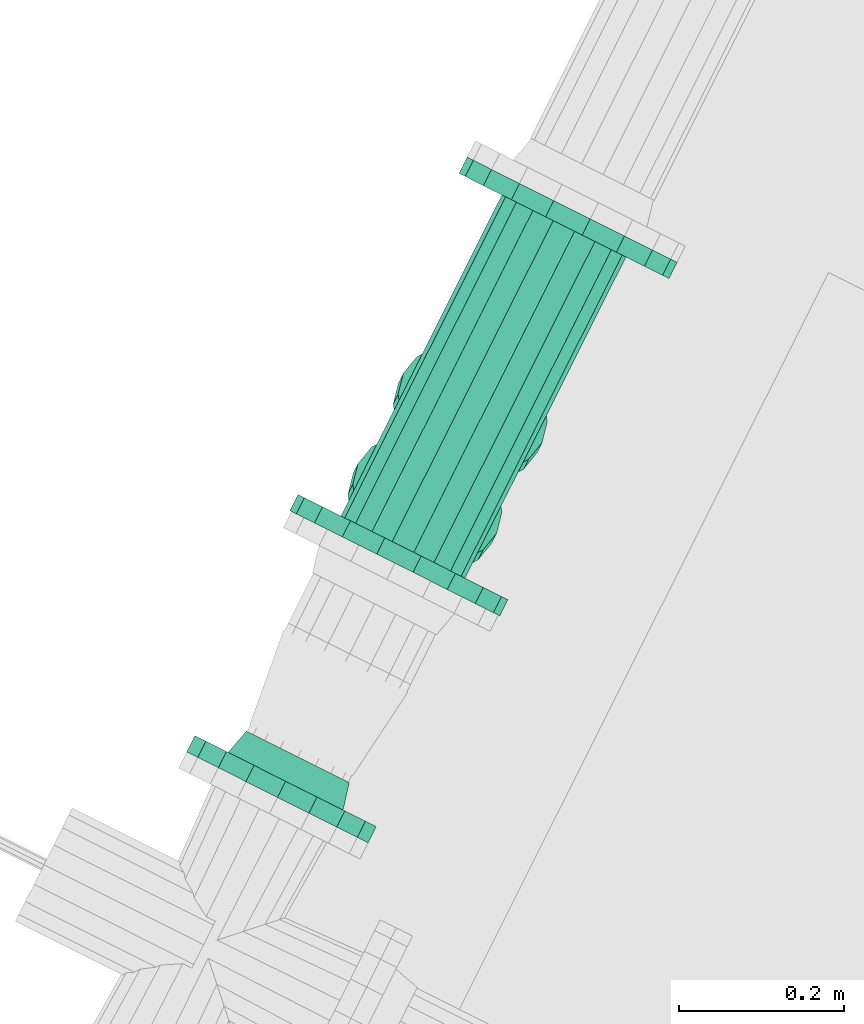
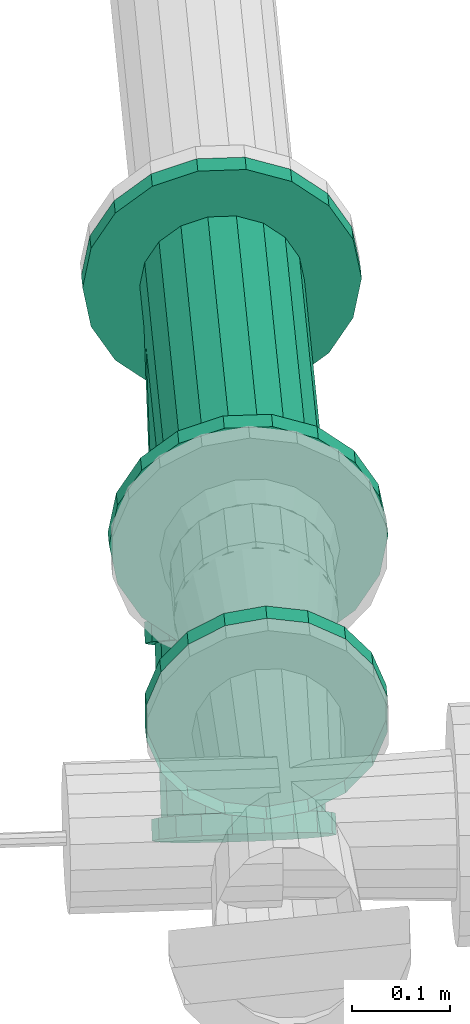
# One storey, part 119 of 206: 1 flow fitting, 1 flow treatment device.
"""IFC2X3 building model written with IfcOpenShell, lengths in metres."""

from ifc_helpers import new_model, si_unit, derived_unit, direction, frame, origin, place, context, subcontext, project, spatial, face_set, surface_model, source, transform, mapped, material, type_object, type_shapes, element, save


model = new_model("IFC2X3")

# Units and contexts
model_context = context("Model", 3, precision=5.2338327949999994e-05, world=origin(), true_north=direction((0.0, 1.0)))
body_context = subcontext(model_context, "Body", "Model", "MODEL_VIEW")
ifc_project = project(units=[si_unit("LENGTHUNIT", "METRE"), si_unit("AREAUNIT", "SQUARE_METRE"), si_unit("VOLUMEUNIT", "CUBIC_METRE"), si_unit("MASSUNIT", "GRAM", prefix="KILO"), si_unit("PLANEANGLEUNIT", "RADIAN"), derived_unit("THERMALTRANSMITTANCEUNIT", [(si_unit("MASSUNIT", "GRAM", prefix="KILO"), 1), (si_unit("THERMODYNAMICTEMPERATUREUNIT", "KELVIN"), -1), (si_unit("TIMEUNIT", "SECOND"), -3)])], contexts=[model_context])

# Site, building, storey
site_placement = place(None, frame((0.0, 0.0, 0.0), z_axis=(0.0, 0.0, 1.0), x_axis=(0.8939966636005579, -0.4480736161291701, 0.0)))
site = spatial("IfcSite", under=ifc_project, at=site_placement, Name="Default", CompositionType="ELEMENT")
building_placement = place(site_placement, origin())
building = spatial("IfcBuilding", under=site, at=building_placement, CompositionType="ELEMENT")
storey_placement = place(building_placement, origin())
storey = spatial("IfcBuildingStorey", under=building, at=storey_placement, Name="Erdgeschoss", CompositionType="ELEMENT", Elevation=0.0)

# Flow treatment device
ifc_material = material(Name="IfcSurfaceStyle #1741")
distribution_element_type_1 = type_object("IfcDistributionElementType", Name="Schmutzfänger 312846:Schmutzfänger 312846", material=ifc_material)
shared_shape_1 = source(origin(), body_context, "Body", "SurfaceModel", [
    surface_model("IfcFaceBasedSurfaceModel", [(20.350980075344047, 7.32099127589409, 2.159995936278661), (20.3797610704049, 7.325017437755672, 2.1569065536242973), (20.3797610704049, 7.415576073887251, 2.274924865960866), (20.35098007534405, 7.4052852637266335, 2.269849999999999), (20.405070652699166, 7.336610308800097, 2.14801103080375), (20.405070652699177, 7.445207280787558, 2.2895373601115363), (20.423856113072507, 7.354371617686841, 2.13438229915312), (20.42385611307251, 7.490604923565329, 2.311925), (20.433851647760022, 7.376159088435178, 2.11766418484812), (20.43385164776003, 7.546293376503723, 2.339387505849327), (20.433851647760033, 7.399344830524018, 2.099873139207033), (20.433851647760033, 7.583130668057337, 2.3393875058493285), (20.423856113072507, 7.42113230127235, 2.0831550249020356), (20.423856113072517, 7.5966736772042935, 2.311925), (20.405070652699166, 7.438893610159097, 2.0695262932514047), (20.40507065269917, 7.6077140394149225, 2.2895373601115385), (20.3797610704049, 7.450486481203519, 2.060630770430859), (20.3797610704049, 7.614920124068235, 2.274924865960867), (20.350980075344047, 7.4545126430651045, 2.0575413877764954), (20.350980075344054, 7.617422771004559, 2.2698499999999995), (20.32219908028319, 7.450486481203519, 2.060630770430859), (20.322199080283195, 7.614920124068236, 2.274924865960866), (20.296889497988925, 7.438893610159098, 2.0695262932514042), (20.29688949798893, 7.6077140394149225, 2.2895373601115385), (20.278104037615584, 7.421132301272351, 2.083155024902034), (20.278104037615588, 7.596673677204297, 2.3119249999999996), (20.268108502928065, 7.399344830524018, 2.099873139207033), (20.268108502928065, 7.583130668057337, 2.3393875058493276), (20.268108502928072, 7.376159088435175, 2.117664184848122), (20.268108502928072, 7.54629337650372, 2.339387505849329), (20.27810403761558, 7.35437161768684, 2.1343822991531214), (20.278104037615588, 7.4906049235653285, 2.3119250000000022), (20.296889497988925, 7.336610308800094, 2.148011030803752), (20.296889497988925, 7.445207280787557, 2.2895373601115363), (20.32219908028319, 7.325017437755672, 2.156906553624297), (20.322199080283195, 7.415576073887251, 2.2749248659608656), (20.208480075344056, 7.656892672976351, 2.354000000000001), (20.21707387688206, 7.656892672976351, 2.3052621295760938), (20.21707387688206, 7.634892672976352, 2.3052621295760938), (20.208480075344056, 7.634892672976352, 2.354000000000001), (20.241818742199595, 7.656892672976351, 2.2624027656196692), (20.241818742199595, 7.634892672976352, 2.262402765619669), (20.279730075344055, 7.656892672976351, 2.2305913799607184), (20.279730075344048, 7.634892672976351, 2.2305913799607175), (20.32623521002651, 7.656892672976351, 2.2136648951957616), (20.32623521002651, 7.634892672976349, 2.2136648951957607), (20.375724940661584, 7.6568926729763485, 2.21366489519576), (20.375724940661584, 7.634892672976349, 2.2136648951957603), (20.422230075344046, 7.656892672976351, 2.2305913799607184), (20.422230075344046, 7.634892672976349, 2.2305913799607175), (20.460141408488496, 7.656892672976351, 2.262402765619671), (20.460141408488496, 7.634892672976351, 2.2624027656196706), (20.484886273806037, 7.6568926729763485, 2.3052621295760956), (20.484886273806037, 7.634892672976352, 2.305262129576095), (20.49348007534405, 7.656892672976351, 2.3540000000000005), (20.49348007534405, 7.634892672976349, 2.3540000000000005), (20.48488627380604, 7.656892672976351, 2.402737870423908), (20.48488627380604, 7.634892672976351, 2.4027378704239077), (20.4601414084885, 7.656892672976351, 2.445597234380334), (20.4601414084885, 7.634892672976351, 2.4455972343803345), (20.42223007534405, 7.656892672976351, 2.4774086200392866), (20.422230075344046, 7.634892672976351, 2.4774086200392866), (20.375724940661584, 7.656892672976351, 2.49433510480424), (20.375724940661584, 7.634892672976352, 2.49433510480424), (20.32623521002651, 7.656892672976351, 2.4943351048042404), (20.32623521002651, 7.634892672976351, 2.49433510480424), (20.279730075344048, 7.656892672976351, 2.4774086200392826), (20.279730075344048, 7.634892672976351, 2.4774086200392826), (20.241818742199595, 7.656892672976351, 2.445597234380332), (20.241818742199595, 7.634892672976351, 2.4455972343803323), (20.21707387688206, 7.656892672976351, 2.402737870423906), (20.21707387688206, 7.634892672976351, 2.402737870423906), (20.350980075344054, 7.656892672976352, 2.3540000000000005), (20.35098007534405, 7.634892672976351, 2.3540000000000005), (20.266830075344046, 7.634892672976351, 2.3540000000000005), (20.271904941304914, 7.634892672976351, 2.3252190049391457), (20.271904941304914, 7.19889267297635, 2.3252190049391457), (20.266830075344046, 7.19889267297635, 2.3540000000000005), (20.28651743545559, 7.634892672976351, 2.299909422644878), (20.28651743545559, 7.19889267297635, 2.299909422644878), (20.30890507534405, 7.634892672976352, 2.2811239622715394), (20.308905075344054, 7.198892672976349, 2.2811239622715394), (20.336367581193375, 7.634892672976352, 2.2711284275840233), (20.336367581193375, 7.198892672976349, 2.2711284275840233), (20.365592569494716, 7.634892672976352, 2.271128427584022), (20.36559256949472, 7.198892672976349, 2.2711284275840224), (20.393055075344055, 7.634892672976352, 2.281123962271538), (20.393055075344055, 7.19889267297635, 2.281123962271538), (20.415442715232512, 7.634892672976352, 2.299909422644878), (20.415442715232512, 7.198892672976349, 2.299909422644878), (20.430055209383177, 7.634892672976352, 2.325219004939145), (20.430055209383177, 7.198892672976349, 2.325219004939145), (20.435130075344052, 7.634892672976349, 2.3540000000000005), (20.435130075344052, 7.19889267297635, 2.3540000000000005), (20.43005520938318, 7.634892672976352, 2.382780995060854), (20.430055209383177, 7.19889267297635, 2.382780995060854), (20.415442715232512, 7.634892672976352, 2.408090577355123), (20.415442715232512, 7.198892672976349, 2.408090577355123), (20.393055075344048, 7.634892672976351, 2.426876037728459), (20.39305507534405, 7.19889267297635, 2.42687603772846), (20.365592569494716, 7.634892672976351, 2.4368715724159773), (20.36559256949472, 7.19889267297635, 2.4368715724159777), (20.336367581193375, 7.634892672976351, 2.4368715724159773), (20.336367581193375, 7.19889267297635, 2.4368715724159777), (20.30890507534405, 7.634892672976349, 2.426876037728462), (20.30890507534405, 7.198892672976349, 2.4268760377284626), (20.28651743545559, 7.634892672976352, 2.4080905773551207), (20.28651743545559, 7.198892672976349, 2.4080905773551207), (20.271904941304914, 7.634892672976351, 2.3827809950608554), (20.271904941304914, 7.19889267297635, 2.3827809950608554), (20.208480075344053, 7.19889267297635, 2.354), (20.217073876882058, 7.19889267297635, 2.305262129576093), (20.21707387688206, 7.176892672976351, 2.305262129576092), (20.208480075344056, 7.176892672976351, 2.3539999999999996), (20.241818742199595, 7.19889267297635, 2.2624027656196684), (20.241818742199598, 7.176892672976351, 2.262402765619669), (20.279730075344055, 7.19889267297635, 2.2305913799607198), (20.279730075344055, 7.176892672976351, 2.230591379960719), (20.32623521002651, 7.19889267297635, 2.21366489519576), (20.326235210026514, 7.176892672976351, 2.2136648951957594), (20.375724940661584, 7.19889267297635, 2.2136648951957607), (20.375724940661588, 7.176892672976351, 2.2136648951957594), (20.422230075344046, 7.19889267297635, 2.2305913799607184), (20.42223007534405, 7.176892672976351, 2.230591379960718), (20.460141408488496, 7.19889267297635, 2.262402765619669), (20.4601414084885, 7.176892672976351, 2.2624027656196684), (20.48488627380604, 7.19889267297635, 2.3052621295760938), (20.48488627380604, 7.17689267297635, 2.305262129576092), (20.49348007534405, 7.19889267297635, 2.354000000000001), (20.49348007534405, 7.17689267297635, 2.354000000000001), (20.48488627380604, 7.19889267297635, 2.402737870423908), (20.48488627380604, 7.176892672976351, 2.4027378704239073), (20.460141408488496, 7.19889267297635, 2.4455972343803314), (20.4601414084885, 7.17689267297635, 2.445597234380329), (20.422230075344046, 7.19889267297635, 2.4774086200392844), (20.422230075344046, 7.176892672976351, 2.4774086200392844), (20.375724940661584, 7.19889267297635, 2.49433510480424), (20.375724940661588, 7.176892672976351, 2.4943351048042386), (20.32623521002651, 7.19889267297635, 2.4943351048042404), (20.326235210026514, 7.176892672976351, 2.4943351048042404), (20.279730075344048, 7.19889267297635, 2.477408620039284), (20.279730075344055, 7.176892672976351, 2.477408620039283), (20.241818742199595, 7.19889267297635, 2.445597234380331), (20.241818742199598, 7.176892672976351, 2.445597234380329), (20.21707387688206, 7.19889267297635, 2.4027378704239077), (20.21707387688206, 7.176892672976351, 2.4027378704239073), (20.350980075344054, 7.19889267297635, 2.3540000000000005), (20.350980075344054, 7.176892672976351, 2.3539999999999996), (20.256830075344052, 7.387751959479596, 2.1087686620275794), (20.26250801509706, 7.413298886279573, 2.089165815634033), (20.26250801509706, 7.399906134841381, 2.0717120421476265), (20.256830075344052, 7.374359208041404, 2.0913148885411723), (20.27885699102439, 7.435764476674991, 2.0719273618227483), (20.27885699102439, 7.422371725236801, 2.0544735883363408), (20.303905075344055, 7.452439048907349, 2.059132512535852), (20.30390507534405, 7.439046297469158, 2.041678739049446), (20.334631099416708, 7.461311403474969, 2.0523245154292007), (20.334631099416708, 7.447918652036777, 2.034870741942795), (20.367329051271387, 7.461311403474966, 2.052324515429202), (20.367329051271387, 7.447918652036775, 2.0348707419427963), (20.39805507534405, 7.452439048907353, 2.05913251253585), (20.398055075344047, 7.439046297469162, 2.0416787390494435), (20.4231031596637, 7.435764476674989, 2.07192736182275), (20.423103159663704, 7.422371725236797, 2.054473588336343), (20.439452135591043, 7.4132988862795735, 2.089165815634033), (20.439452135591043, 7.399906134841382, 2.0717120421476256), (20.44513007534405, 7.387751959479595, 2.10876866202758), (20.44513007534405, 7.374359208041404, 2.0913148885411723), (20.439452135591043, 7.362205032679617, 2.1283715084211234), (20.439452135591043, 7.348812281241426, 2.1109177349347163), (20.4231031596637, 7.339739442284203, 2.145609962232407), (20.4231031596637, 7.326346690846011, 2.1281561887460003), (20.39805507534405, 7.323064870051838, 2.158404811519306), (20.398055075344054, 7.309672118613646, 2.1409510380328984), (20.367329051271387, 7.314192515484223, 2.165212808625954), (20.367329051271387, 7.300799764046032, 2.1477590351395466), (20.334631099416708, 7.314192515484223, 2.165212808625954), (20.334631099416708, 7.300799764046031, 2.1477590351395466), (20.303905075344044, 7.323064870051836, 2.1584048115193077), (20.30390507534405, 7.309672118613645, 2.1409510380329), (20.278856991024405, 7.339739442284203, 2.1456099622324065), (20.2788569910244, 7.326346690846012, 2.1281561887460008), (20.26250801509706, 7.36220503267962, 2.128371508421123), (20.26250801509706, 7.34881228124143, 2.1109177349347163), (20.35098007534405, 7.387751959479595, 2.10876866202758), (20.35098007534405, 7.374359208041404, 2.0913148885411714), (20.266830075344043, 7.374359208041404, 2.091314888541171), (20.271904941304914, 7.397192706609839, 2.0737941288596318), (20.271904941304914, 7.287813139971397, 1.9312479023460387), (20.266830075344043, 7.264979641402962, 1.9487686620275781), (20.28651743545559, 7.417272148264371, 2.05838663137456), (20.28651743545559, 7.30789258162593, 1.9158404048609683), (20.30890507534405, 7.432175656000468, 2.0469507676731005), (20.308905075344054, 7.3227960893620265, 1.9044045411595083), (20.336367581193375, 7.440105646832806, 2.040865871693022), (20.336367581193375, 7.330726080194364, 1.8983196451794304), (20.365592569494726, 7.440105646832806, 2.04086587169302), (20.36559256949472, 7.330726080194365, 1.898319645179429), (20.393055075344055, 7.432175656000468, 2.0469507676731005), (20.393055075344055, 7.3227960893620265, 1.904404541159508), (20.41544271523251, 7.41727214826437, 2.05838663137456), (20.415442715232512, 7.30789258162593, 1.9158404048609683), (20.430055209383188, 7.397192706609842, 2.0737941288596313), (20.43005520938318, 7.2878131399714, 1.931247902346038), (20.43513007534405, 7.374359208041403, 2.0913148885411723), (20.43513007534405, 7.264979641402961, 1.9487686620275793), (20.430055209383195, 7.351525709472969, 2.1088356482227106), (20.43005520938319, 7.242146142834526, 1.9662894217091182), (20.415442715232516, 7.3314462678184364, 2.124243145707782), (20.415442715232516, 7.222066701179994, 1.9816969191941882), (20.39305507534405, 7.3165427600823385, 2.1356790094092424), (20.39305507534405, 7.207163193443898, 1.99313278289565), (20.36559256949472, 7.308612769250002, 2.1417639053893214), (20.36559256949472, 7.19923320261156, 1.9992176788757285), (20.336367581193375, 7.308612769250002, 2.141763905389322), (20.336367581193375, 7.19923320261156, 1.9992176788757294), (20.308905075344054, 7.316542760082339, 2.135679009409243), (20.308905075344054, 7.207163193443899, 1.9931327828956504), (20.28651743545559, 7.3314462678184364, 2.124243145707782), (20.28651743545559, 7.222066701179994, 1.9816969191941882), (20.271904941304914, 7.35152570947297, 2.10883564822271), (20.271904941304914, 7.242146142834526, 1.9662894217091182), (20.256830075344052, 7.264979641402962, 1.9487686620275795), (20.26250801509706, 7.290526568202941, 1.9291658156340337), (20.26250801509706, 7.277133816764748, 1.9117120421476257), (20.256830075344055, 7.251586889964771, 1.9313148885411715), (20.278856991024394, 7.312992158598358, 1.9119273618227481), (20.278856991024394, 7.299599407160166, 1.8944735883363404), (20.30390507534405, 7.329666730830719, 1.8991325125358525), (20.30390507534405, 7.316273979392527, 1.8816787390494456), (20.334631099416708, 7.338539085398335, 1.8923245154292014), (20.334631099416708, 7.325146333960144, 1.8748707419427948), (20.367329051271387, 7.3385390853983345, 1.8923245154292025), (20.367329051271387, 7.325146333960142, 1.8748707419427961), (20.398055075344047, 7.329666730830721, 1.8991325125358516), (20.398055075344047, 7.316273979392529, 1.8816787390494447), (20.423103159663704, 7.312992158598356, 1.9119273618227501), (20.423103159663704, 7.299599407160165, 1.8944735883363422), (20.439452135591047, 7.290526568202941, 1.9291658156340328), (20.439452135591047, 7.2771338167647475, 1.9117120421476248), (20.44513007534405, 7.264979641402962, 1.9487686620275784), (20.44513007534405, 7.251586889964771, 1.9313148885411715), (20.439452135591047, 7.239432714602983, 1.9683715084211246), (20.439452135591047, 7.226039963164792, 1.950917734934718), (20.4231031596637, 7.216967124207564, 1.9856099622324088), (20.4231031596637, 7.203574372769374, 1.9681561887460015), (20.398055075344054, 7.2002925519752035, 1.9984048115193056), (20.39805507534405, 7.1868998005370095, 1.9809510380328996), (20.367329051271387, 7.191420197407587, 2.0052128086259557), (20.367329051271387, 7.178027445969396, 1.9877590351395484), (20.334631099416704, 7.191420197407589, 2.0052128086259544), (20.334631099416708, 7.178027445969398, 1.9877590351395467), (20.30390507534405, 7.200292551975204, 1.998404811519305), (20.303905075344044, 7.186899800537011, 1.9809510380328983), (20.2788569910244, 7.2169671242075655, 1.9856099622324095), (20.278856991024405, 7.203574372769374, 1.968156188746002), (20.26250801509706, 7.239432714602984, 1.9683715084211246), (20.26250801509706, 7.226039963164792, 1.950917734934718), (20.35098007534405, 7.264979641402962, 1.9487686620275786), (20.35098007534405, 7.251586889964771, 1.931314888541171)], [face_set([[[0, 1, 2, 3]], [[1, 4, 5, 2]], [[4, 6, 7, 5]], [[6, 8, 9, 7]], [[8, 10, 11, 9]], [[10, 12, 13, 11]], [[12, 14, 15, 13]], [[14, 16, 17, 15]], [[16, 18, 19, 17]], [[18, 20, 21, 19]], [[20, 22, 23, 21]], [[22, 24, 25, 23]], [[24, 26, 27, 25]], [[26, 28, 29, 27]], [[28, 30, 31, 29]], [[30, 32, 33, 31]], [[32, 34, 35, 33]], [[34, 0, 3, 35]], [[36, 37, 38, 39]], [[37, 40, 41, 38]], [[40, 42, 43, 41]], [[42, 44, 45, 43]], [[44, 46, 47, 45]], [[46, 48, 49, 47]], [[48, 50, 51, 49]], [[50, 52, 53, 51]], [[52, 54, 55, 53]], [[54, 56, 57, 55]], [[56, 58, 59, 57]], [[58, 60, 61, 59]], [[60, 62, 63, 61]], [[62, 64, 65, 63]], [[64, 66, 67, 65]], [[66, 68, 69, 67]], [[68, 70, 71, 69]], [[70, 36, 39, 71]], [[72, 37, 36]], [[72, 40, 37]], [[72, 42, 40]], [[72, 44, 42]], [[72, 46, 44]], [[72, 48, 46]], [[72, 50, 48]], [[72, 52, 50]], [[72, 54, 52]], [[72, 56, 54]], [[72, 58, 56]], [[72, 60, 58]], [[72, 62, 60]], [[72, 64, 62]], [[72, 66, 64]], [[72, 68, 66]], [[72, 70, 68]], [[72, 36, 70]], [[73, 71, 39]], [[73, 69, 71]], [[73, 67, 69]], [[73, 65, 67]], [[73, 63, 65]], [[73, 61, 63]], [[73, 59, 61]], [[73, 57, 59]], [[73, 55, 57]], [[73, 53, 55]], [[73, 51, 53]], [[73, 49, 51]], [[73, 47, 49]], [[73, 45, 47]], [[73, 43, 45]], [[73, 41, 43]], [[73, 38, 41]], [[73, 39, 38]], [[74, 75, 76, 77]], [[75, 78, 79, 76]], [[78, 80, 81, 79]], [[80, 82, 83, 81]], [[82, 84, 85, 83]], [[84, 86, 87, 85]], [[86, 88, 89, 87]], [[88, 90, 91, 89]], [[90, 92, 93, 91]], [[92, 94, 95, 93]], [[94, 96, 97, 95]], [[96, 98, 99, 97]], [[98, 100, 101, 99]], [[100, 102, 103, 101]], [[102, 104, 105, 103]], [[104, 106, 107, 105]], [[106, 108, 109, 107]], [[108, 74, 77, 109]], [[110, 111, 112, 113]], [[111, 114, 115, 112]], [[114, 116, 117, 115]], [[116, 118, 119, 117]], [[118, 120, 121, 119]], [[120, 122, 123, 121]], [[122, 124, 125, 123]], [[124, 126, 127, 125]], [[126, 128, 129, 127]], [[128, 130, 131, 129]], [[130, 132, 133, 131]], [[132, 134, 135, 133]], [[134, 136, 137, 135]], [[136, 138, 139, 137]], [[138, 140, 141, 139]], [[140, 142, 143, 141]], [[142, 144, 145, 143]], [[144, 110, 113, 145]], [[146, 111, 110]], [[146, 114, 111]], [[146, 116, 114]], [[146, 118, 116]], [[146, 120, 118]], [[146, 122, 120]], [[146, 124, 122]], [[146, 126, 124]], [[146, 128, 126]], [[146, 130, 128]], [[146, 132, 130]], [[146, 134, 132]], [[146, 136, 134]], [[146, 138, 136]], [[146, 140, 138]], [[146, 142, 140]], [[146, 144, 142]], [[146, 110, 144]], [[147, 145, 113]], [[147, 143, 145]], [[147, 141, 143]], [[147, 139, 141]], [[147, 137, 139]], [[147, 135, 137]], [[147, 133, 135]], [[147, 131, 133]], [[147, 129, 131]], [[147, 127, 129]], [[147, 125, 127]], [[147, 123, 125]], [[147, 121, 123]], [[147, 119, 121]], [[147, 117, 119]], [[147, 115, 117]], [[147, 112, 115]], [[147, 113, 112]], [[148, 149, 150, 151]], [[149, 152, 153, 150]], [[152, 154, 155, 153]], [[154, 156, 157, 155]], [[156, 158, 159, 157]], [[158, 160, 161, 159]], [[160, 162, 163, 161]], [[162, 164, 165, 163]], [[164, 166, 167, 165]], [[166, 168, 169, 167]], [[168, 170, 171, 169]], [[170, 172, 173, 171]], [[172, 174, 175, 173]], [[174, 176, 177, 175]], [[176, 178, 179, 177]], [[178, 180, 181, 179]], [[180, 182, 183, 181]], [[182, 148, 151, 183]], [[184, 149, 148]], [[184, 152, 149]], [[184, 154, 152]], [[184, 156, 154]], [[184, 158, 156]], [[184, 160, 158]], [[184, 162, 160]], [[184, 164, 162]], [[184, 166, 164]], [[184, 168, 166]], [[184, 170, 168]], [[184, 172, 170]], [[184, 174, 172]], [[184, 176, 174]], [[184, 178, 176]], [[184, 180, 178]], [[184, 182, 180]], [[184, 148, 182]], [[185, 183, 151]], [[185, 181, 183]], [[185, 179, 181]], [[185, 177, 179]], [[185, 175, 177]], [[185, 173, 175]], [[185, 171, 173]], [[185, 169, 171]], [[185, 167, 169]], [[185, 165, 167]], [[185, 163, 165]], [[185, 161, 163]], [[185, 159, 161]], [[185, 157, 159]], [[185, 155, 157]], [[185, 153, 155]], [[185, 150, 153]], [[185, 151, 150]], [[186, 187, 188, 189]], [[187, 190, 191, 188]], [[190, 192, 193, 191]], [[192, 194, 195, 193]], [[194, 196, 197, 195]], [[196, 198, 199, 197]], [[198, 200, 201, 199]], [[200, 202, 203, 201]], [[202, 204, 205, 203]], [[204, 206, 207, 205]], [[206, 208, 209, 207]], [[208, 210, 211, 209]], [[210, 212, 213, 211]], [[212, 214, 215, 213]], [[214, 216, 217, 215]], [[216, 218, 219, 217]], [[218, 220, 221, 219]], [[220, 186, 189, 221]], [[222, 223, 224, 225]], [[223, 226, 227, 224]], [[226, 228, 229, 227]], [[228, 230, 231, 229]], [[230, 232, 233, 231]], [[232, 234, 235, 233]], [[234, 236, 237, 235]], [[236, 238, 239, 237]], [[238, 240, 241, 239]], [[240, 242, 243, 241]], [[242, 244, 245, 243]], [[244, 246, 247, 245]], [[246, 248, 249, 247]], [[248, 250, 251, 249]], [[250, 252, 253, 251]], [[252, 254, 255, 253]], [[254, 256, 257, 255]], [[256, 222, 225, 257]], [[258, 223, 222]], [[258, 226, 223]], [[258, 228, 226]], [[258, 230, 228]], [[258, 232, 230]], [[258, 234, 232]], [[258, 236, 234]], [[258, 238, 236]], [[258, 240, 238]], [[258, 242, 240]], [[258, 244, 242]], [[258, 246, 244]], [[258, 248, 246]], [[258, 250, 248]], [[258, 252, 250]], [[258, 254, 252]], [[258, 256, 254]], [[258, 222, 256]], [[259, 257, 225]], [[259, 255, 257]], [[259, 253, 255]], [[259, 251, 253]], [[259, 249, 251]], [[259, 247, 249]], [[259, 245, 247]], [[259, 243, 245]], [[259, 241, 243]], [[259, 239, 241]], [[259, 237, 239]], [[259, 235, 237]], [[259, 233, 235]], [[259, 231, 233]], [[259, 229, 231]], [[259, 227, 229]], [[259, 224, 227]], [[259, 225, 224]]])]),
])
type_shapes(distribution_element_type_1, [shared_shape_1])
flow_treatment_device_placement = place(storey_placement, origin())
element("IfcFlowTreatmentDevice", 1, at=flow_treatment_device_placement, inside=storey, type_object=distribution_element_type_1, material=ifc_material, Name="Schmutzfänger", ObjectType="Schmutzfänger", context=body_context, shape_type="MappedRepresentation", body=[
    mapped(shared_shape_1, transform((0.0, 0.0, 0.0), scale=1.0)),
])

# Flow fitting
distribution_element_type_2 = type_object("IfcDistributionElementType", Name="Flansch 314715:Flansch 314715", material=ifc_material)
shared_shape_2 = source(origin(), body_context, "Body", "SurfaceModel", [
    surface_model("IfcFaceBasedSurfaceModel", [(20.35098007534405, 6.8589610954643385, 2.479), (20.39373259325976, 6.8589610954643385, 2.471461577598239), (20.39373259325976, 6.88096109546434, 2.471461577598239), (20.35098007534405, 6.88096109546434, 2.479), (20.431328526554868, 6.8589610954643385, 2.449755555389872), (20.431328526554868, 6.88096109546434, 2.449755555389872), (20.4592332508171, 6.8589610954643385, 2.416499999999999), (20.4592332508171, 6.88096109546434, 2.416499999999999), (20.47408104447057, 6.8589610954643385, 2.375706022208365), (20.47408104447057, 6.88096109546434, 2.375706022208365), (20.47408104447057, 6.8589610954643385, 2.3322939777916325), (20.47408104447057, 6.88096109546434, 2.3322939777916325), (20.4592332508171, 6.8589610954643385, 2.2914999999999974), (20.4592332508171, 6.88096109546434, 2.2914999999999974), (20.431328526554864, 6.8589610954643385, 2.258244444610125), (20.431328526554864, 6.88096109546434, 2.258244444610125), (20.393732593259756, 6.8589610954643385, 2.236538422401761), (20.393732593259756, 6.88096109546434, 2.236538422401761), (20.350980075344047, 6.8589610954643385, 2.2290000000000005), (20.350980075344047, 6.88096109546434, 2.2290000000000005), (20.308227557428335, 6.8589610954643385, 2.236538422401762), (20.308227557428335, 6.88096109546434, 2.236538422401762), (20.270631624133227, 6.8589610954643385, 2.2582444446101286), (20.270631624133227, 6.88096109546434, 2.2582444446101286), (20.24272689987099, 6.8589610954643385, 2.291499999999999), (20.24272689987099, 6.88096109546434, 2.291499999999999), (20.22787910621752, 6.8589610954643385, 2.3322939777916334), (20.22787910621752, 6.88096109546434, 2.3322939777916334), (20.22787910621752, 6.8589610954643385, 2.375706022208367), (20.22787910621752, 6.88096109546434, 2.375706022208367), (20.24272689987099, 6.8589610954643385, 2.416500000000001), (20.24272689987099, 6.88096109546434, 2.416500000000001), (20.270631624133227, 6.8589610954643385, 2.449755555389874), (20.270631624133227, 6.88096109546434, 2.449755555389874), (20.308227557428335, 6.8589610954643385, 2.471461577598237), (20.308227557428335, 6.88096109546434, 2.471461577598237), (20.35098007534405, 6.880961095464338, 2.3540000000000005), (20.428980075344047, 6.88096109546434, 2.353999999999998), (20.424276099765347, 6.88096109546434, 2.327322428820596), (20.416617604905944, 6.913961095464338, 2.330109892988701), (20.420830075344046, 6.913961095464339, 2.3539999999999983), (20.410731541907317, 6.88096109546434, 2.303862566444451), (20.404488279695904, 6.913961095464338, 2.3091012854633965), (20.389980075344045, 6.88096109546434, 2.286450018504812), (20.385905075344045, 6.913961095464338, 2.293508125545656), (20.364524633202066, 6.88096109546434, 2.277184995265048), (20.36310940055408, 6.913961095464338, 2.2852111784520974), (20.337435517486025, 6.88096109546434, 2.277184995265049), (20.338850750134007, 6.913961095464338, 2.2852111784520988), (20.311980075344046, 6.88096109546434, 2.286450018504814), (20.316055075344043, 6.913961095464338, 2.293508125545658), (20.29122860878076, 6.88096109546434, 2.303862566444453), (20.297471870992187, 6.913961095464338, 2.309101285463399), (20.277684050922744, 6.88096109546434, 2.3273224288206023), (20.285342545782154, 6.913961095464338, 2.330109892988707), (20.272980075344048, 6.88096109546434, 2.3540000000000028), (20.281130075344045, 6.913961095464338, 2.354000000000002), (20.277684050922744, 6.88096109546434, 2.3806775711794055), (20.285342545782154, 6.913961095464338, 2.377890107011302), (20.291228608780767, 6.88096109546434, 2.404137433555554), (20.297471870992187, 6.913961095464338, 2.398898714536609), (20.311980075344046, 6.88096109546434, 2.4215499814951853), (20.316055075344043, 6.913961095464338, 2.4144918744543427), (20.337435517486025, 6.88096109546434, 2.430815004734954), (20.33885075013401, 6.913961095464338, 2.422788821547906), (20.364524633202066, 6.88096109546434, 2.4308150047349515), (20.36310940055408, 6.913961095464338, 2.422788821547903), (20.389980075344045, 6.88096109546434, 2.421549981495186), (20.38590507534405, 6.913961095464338, 2.4144918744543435), (20.410731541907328, 6.88096109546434, 2.404137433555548), (20.404488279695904, 6.913961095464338, 2.3988987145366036), (20.42427609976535, 6.88096109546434, 2.3806775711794), (20.416617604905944, 6.913961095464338, 2.3778901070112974)], [face_set([[[0, 1, 2, 3]], [[1, 4, 5, 2]], [[4, 6, 7, 5]], [[6, 8, 9, 7]], [[8, 10, 11, 9]], [[10, 12, 13, 11]], [[12, 14, 15, 13]], [[14, 16, 17, 15]], [[16, 18, 19, 17]], [[18, 20, 21, 19]], [[20, 22, 23, 21]], [[22, 24, 25, 23]], [[24, 26, 27, 25]], [[26, 28, 29, 27]], [[28, 30, 31, 29]], [[30, 32, 33, 31]], [[32, 34, 35, 33]], [[34, 0, 3, 35]], [[36, 35, 3]], [[36, 33, 35]], [[36, 31, 33]], [[36, 29, 31]], [[36, 27, 29]], [[36, 25, 27]], [[36, 23, 25]], [[36, 21, 23]], [[36, 19, 21]], [[36, 17, 19]], [[36, 15, 17]], [[36, 13, 15]], [[36, 11, 13]], [[36, 9, 11]], [[36, 7, 9]], [[36, 5, 7]], [[36, 2, 5]], [[36, 3, 2]], [[37, 38, 39, 40]], [[38, 41, 42, 39]], [[41, 43, 44, 42]], [[43, 45, 46, 44]], [[45, 47, 48, 46]], [[47, 49, 50, 48]], [[49, 51, 52, 50]], [[51, 53, 54, 52]], [[53, 55, 56, 54]], [[55, 57, 58, 56]], [[57, 59, 60, 58]], [[59, 61, 62, 60]], [[61, 63, 64, 62]], [[63, 65, 66, 64]], [[65, 67, 68, 66]], [[67, 69, 70, 68]], [[69, 71, 72, 70]], [[71, 37, 40, 72]]])]),
])
type_shapes(distribution_element_type_2, [shared_shape_2])
flow_fitting_placement = place(storey_placement, origin())
element("IfcFlowFitting", 2, at=flow_fitting_placement, inside=storey, type_object=distribution_element_type_2, material=ifc_material, Name="Flansch", ObjectType="Flansch", context=body_context, shape_type="MappedRepresentation", body=[
    mapped(shared_shape_2, transform((0.0, 0.0, 0.0), scale=1.0)),
])

save(model, "model.ifc")
